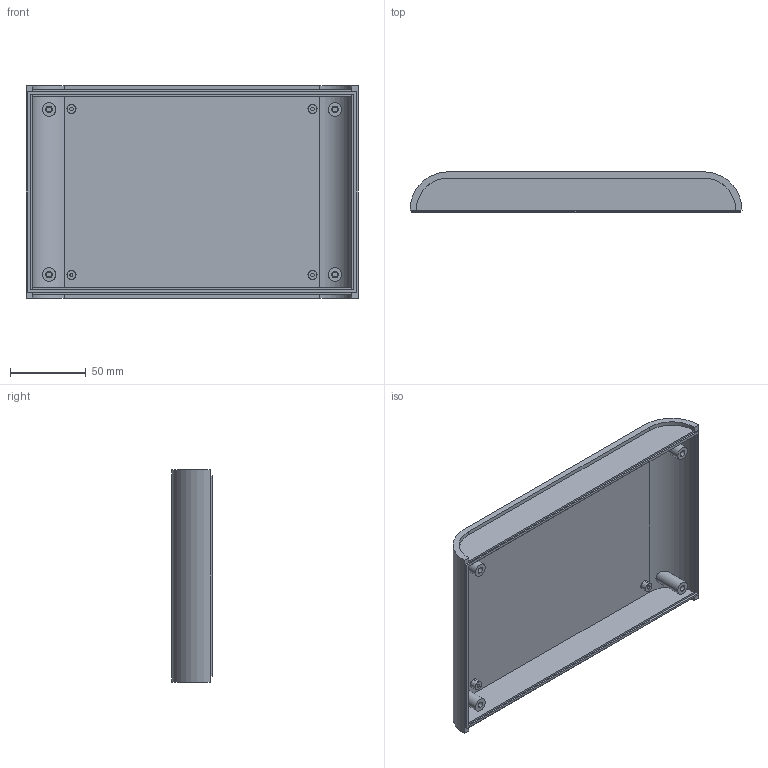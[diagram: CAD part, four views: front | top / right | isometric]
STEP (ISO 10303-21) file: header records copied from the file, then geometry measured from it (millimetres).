
FILE_DESCRIPTION (( 'STEP AP214' ), '1' );
FILE_NAME ('Tapa PP70.STEP', '2017-11-14T10:09:56', ( 'aaa' ), ( '' ), 'SwSTEP 2.0', 'SolidWorks 2013', '' );
FILE_SCHEMA (( 'AUTOMOTIVE_DESIGN' ));
Length unit declared in the file: millimetre
Products named in the file (1): Tapa PP70
Bounding box: 219 x 26.4 x 140 mm (x, y, z)
Volume: 158329.6 mm3; surface area: 93232.6 mm2
Topology: 1 solids, 1 shells, 105 faces, 254 edges, 164 vertices
Faces by surface type: plane 61, cylinder 44
Entity records: 3398 total; most frequent: CARTESIAN_POINT 816, DIRECTION 550, ORIENTED_EDGE 508, EDGE_CURVE 254, AXIS2_PLACEMENT_3D 198, VERTEX_POINT 164, VECTOR 154, LINE 154
